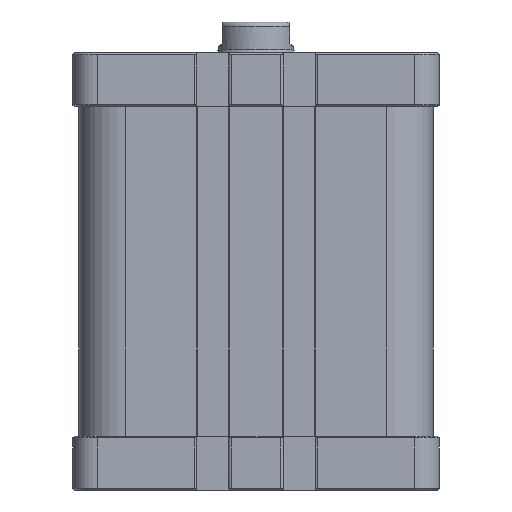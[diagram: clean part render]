
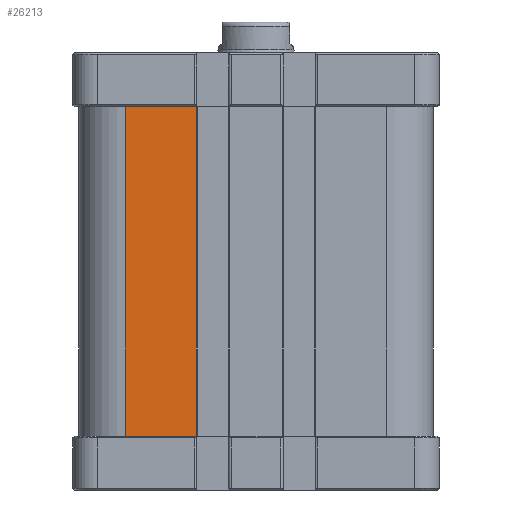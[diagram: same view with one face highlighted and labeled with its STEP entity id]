
A CAD part, front view. The second image highlights one B-rep face of the part: STEP entity #26213.
In plain terms, the highlighted planar face has unit normal (0, -1, 0).
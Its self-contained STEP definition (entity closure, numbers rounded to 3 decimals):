
#340 = CARTESIAN_POINT ( 'NONE',  ( -19.375, -57.5, -75. ) ) ;
#1361 = ORIENTED_EDGE ( 'NONE', *, *, #23558, .T. ) ;
#1383 = VECTOR ( 'NONE', #24304, 1000. ) ;
#3071 = VECTOR ( 'NONE', #3543, 1000. ) ;
#3543 = DIRECTION ( 'NONE',  ( 0., 0., -1. ) ) ;
#4431 = AXIS2_PLACEMENT_3D ( 'NONE', #22758, #17815, #12587 ) ;
#4643 = PLANE ( 'NONE',  #4431 ) ;
#4746 = ORIENTED_EDGE ( 'NONE', *, *, #24703, .F. ) ;
#6011 = DIRECTION ( 'NONE',  ( 1., 0., 0. ) ) ;
#6235 = ORIENTED_EDGE ( 'NONE', *, *, #18889, .T. ) ;
#7395 = LINE ( 'NONE', #10604, #26838 ) ;
#7771 = CARTESIAN_POINT ( 'NONE',  ( -42.5, -57.5, -75. ) ) ;
#8221 = CARTESIAN_POINT ( 'NONE',  ( -42.5, -57.5, 32. ) ) ;
#9082 = CARTESIAN_POINT ( 'NONE',  ( -19.375, -57.5, 32. ) ) ;
#10604 = CARTESIAN_POINT ( 'NONE',  ( -42.5, -57.5, -75. ) ) ;
#11124 = CARTESIAN_POINT ( 'NONE',  ( -42.5, -57.5, 32. ) ) ;
#11181 = DIRECTION ( 'NONE',  ( 1., 0., 0. ) ) ;
#12587 = DIRECTION ( 'NONE',  ( -1., 0., 0. ) ) ;
#14391 = LINE ( 'NONE', #21999, #1383 ) ;
#14565 = VERTEX_POINT ( 'NONE', #17820 ) ;
#14754 = EDGE_LOOP ( 'NONE', ( #6235, #21042, #4746, #1361 ) ) ;
#15212 = LINE ( 'NONE', #8221, #3071 ) ;
#16384 = VERTEX_POINT ( 'NONE', #340 ) ;
#17425 = VERTEX_POINT ( 'NONE', #7771 ) ;
#17815 = DIRECTION ( 'NONE',  ( 0., 1., 0. ) ) ;
#17820 = CARTESIAN_POINT ( 'NONE',  ( -42.5, -57.5, 32. ) ) ;
#18378 = FACE_OUTER_BOUND ( 'NONE', #14754, .T. ) ;
#18889 = EDGE_CURVE ( 'NONE', #17425, #16384, #7395, .T. ) ;
#19317 = VERTEX_POINT ( 'NONE', #9082 ) ;
#21042 = ORIENTED_EDGE ( 'NONE', *, *, #27528, .T. ) ;
#21999 = CARTESIAN_POINT ( 'NONE',  ( -19.375, -57.5, 32. ) ) ;
#22758 = CARTESIAN_POINT ( 'NONE',  ( -42.5, -57.5, 32. ) ) ;
#23558 = EDGE_CURVE ( 'NONE', #14565, #17425, #15212, .T. ) ;
#24304 = DIRECTION ( 'NONE',  ( 0., 0., 1. ) ) ;
#24703 = EDGE_CURVE ( 'NONE', #14565, #19317, #28747, .T. ) ;
#26213 = ADVANCED_FACE ( 'NONE', ( #18378 ), #4643, .F. ) ;
#26838 = VECTOR ( 'NONE', #11181, 1000. ) ;
#27120 = VECTOR ( 'NONE', #6011, 1000. ) ;
#27528 = EDGE_CURVE ( 'NONE', #16384, #19317, #14391, .T. ) ;
#28747 = LINE ( 'NONE', #11124, #27120 ) ;
